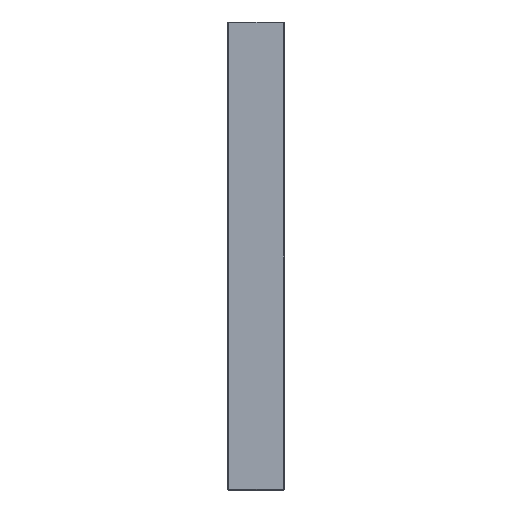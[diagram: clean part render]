
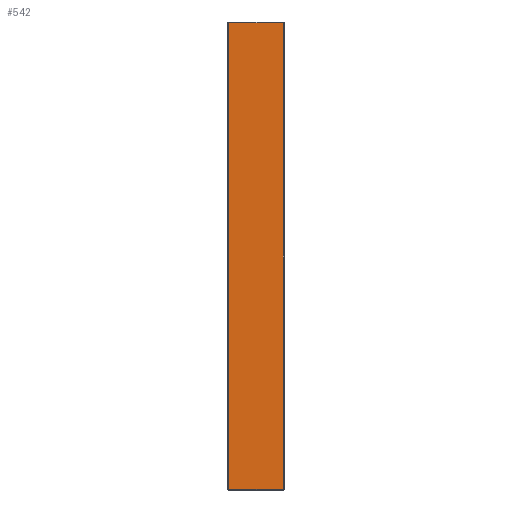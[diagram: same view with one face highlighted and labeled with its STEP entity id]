
A CAD part, left-side view. The second image highlights one B-rep face of the part: STEP entity #542.
In plain terms, the highlighted planar face has unit normal (-1, 0, 0).
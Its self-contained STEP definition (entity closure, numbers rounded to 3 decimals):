
#64 = VECTOR ( 'NONE', #264, 1000. ) ;
#67 = VERTEX_POINT ( 'NONE', #232 ) ;
#93 = DIRECTION ( 'NONE',  ( 0., 0., -1. ) ) ;
#133 = CARTESIAN_POINT ( 'NONE',  ( -173., 66., 273. ) ) ;
#222 = LINE ( 'NONE', #1735, #820 ) ;
#232 = CARTESIAN_POINT ( 'NONE',  ( -173., 1., 272. ) ) ;
#236 = EDGE_CURVE ( 'NONE', #1203, #2085, #2277, .T. ) ;
#264 = DIRECTION ( 'NONE',  ( 0., 1., 0. ) ) ;
#320 = PLANE ( 'NONE',  #1329 ) ;
#334 = VERTEX_POINT ( 'NONE', #997 ) ;
#542 = ADVANCED_FACE ( 'NONE', ( #2118 ), #320, .F. ) ;
#584 = DIRECTION ( 'NONE',  ( 0., 0., -1. ) ) ;
#657 = CARTESIAN_POINT ( 'NONE',  ( -173., 1., -272. ) ) ;
#686 = ORIENTED_EDGE ( 'NONE', *, *, #1114, .T. ) ;
#699 = VECTOR ( 'NONE', #2478, 1000. ) ;
#731 = CARTESIAN_POINT ( 'NONE',  ( -173., 66., 272. ) ) ;
#779 = DIRECTION ( 'NONE',  ( 1., 0., 0. ) ) ;
#820 = VECTOR ( 'NONE', #93, 1000. ) ;
#968 = CARTESIAN_POINT ( 'NONE',  ( -173., 1., 273. ) ) ;
#997 = CARTESIAN_POINT ( 'NONE',  ( -173., 65., 272. ) ) ;
#1021 = ORIENTED_EDGE ( 'NONE', *, *, #236, .T. ) ;
#1026 = DIRECTION ( 'NONE',  ( 0., 0., 1. ) ) ;
#1114 = EDGE_CURVE ( 'NONE', #67, #334, #1712, .T. ) ;
#1151 = ORIENTED_EDGE ( 'NONE', *, *, #1544, .T. ) ;
#1203 = VERTEX_POINT ( 'NONE', #2169 ) ;
#1329 = AXIS2_PLACEMENT_3D ( 'NONE', #133, #779, #584 ) ;
#1544 = EDGE_CURVE ( 'NONE', #2085, #67, #2356, .T. ) ;
#1712 = LINE ( 'NONE', #731, #64 ) ;
#1735 = CARTESIAN_POINT ( 'NONE',  ( -173., 65., 273. ) ) ;
#1775 = EDGE_LOOP ( 'NONE', ( #686, #2005, #1021, #1151 ) ) ;
#1834 = VECTOR ( 'NONE', #1026, 1000. ) ;
#2005 = ORIENTED_EDGE ( 'NONE', *, *, #2221, .T. ) ;
#2085 = VERTEX_POINT ( 'NONE', #657 ) ;
#2116 = CARTESIAN_POINT ( 'NONE',  ( -173., 66., -272. ) ) ;
#2118 = FACE_OUTER_BOUND ( 'NONE', #1775, .T. ) ;
#2169 = CARTESIAN_POINT ( 'NONE',  ( -173., 65., -272. ) ) ;
#2221 = EDGE_CURVE ( 'NONE', #334, #1203, #222, .T. ) ;
#2277 = LINE ( 'NONE', #2116, #699 ) ;
#2356 = LINE ( 'NONE', #968, #1834 ) ;
#2478 = DIRECTION ( 'NONE',  ( 0., -1., 0. ) ) ;
